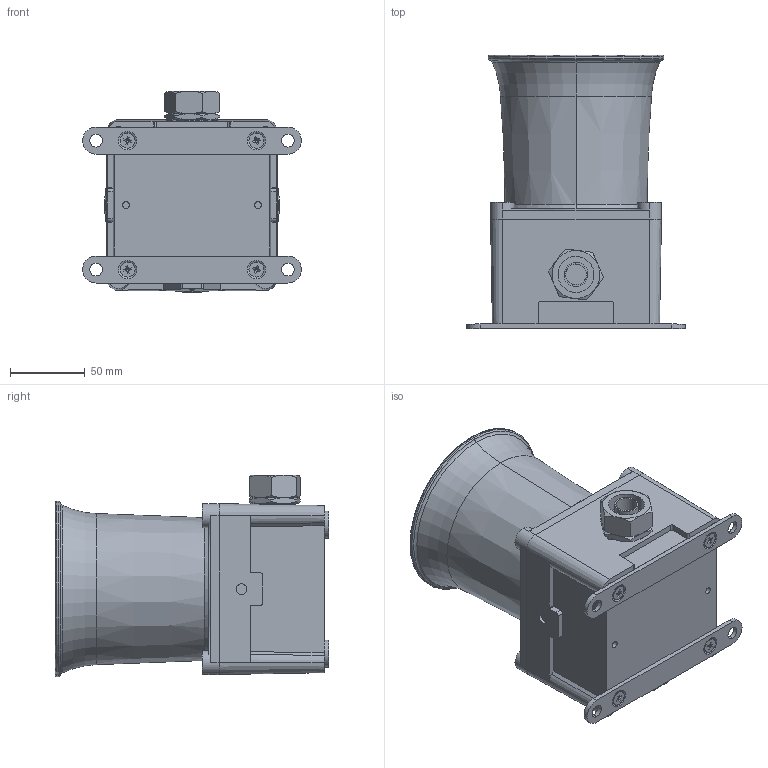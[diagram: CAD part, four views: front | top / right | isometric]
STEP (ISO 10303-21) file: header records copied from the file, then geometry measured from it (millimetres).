
FILE_DESCRIPTION (( 'STEP AP203' ), '1' );
FILE_NAME ('QKR572_3D00281 SEWN30E 3D紫賊_221020.STEP', '2022-11-14T02:04:48', ( 'QKR_PC04' ), ( '' ), 'SwSTEP 2.0', 'SolidWorks 2019', '' );
FILE_SCHEMA (( 'CONFIG_CONTROL_DESIGN' ));
Length unit declared in the file: inch
Products named in the file (1): QKR572_3D00281 SEWN30E 3D紫賊_221020
Bounding box: 146 x 182.28 x 134.51 mm (x, y, z)
Volume: 1307797.1 mm3; surface area: 182668.4 mm2
Topology: 1 solids, 18 shells, 955 faces, 2421 edges, 1510 vertices
Faces by surface type: plane 454, cylinder 209, cone 197, torus 76, sphere 16, bspline 3
Entity records: 31193 total; most frequent: CARTESIAN_POINT 8316, DIRECTION 4883, ORIENTED_EDGE 4790, EDGE_CURVE 2395, AXIS2_PLACEMENT_3D 2025, VERTEX_POINT 1510, CIRCLE 1072, EDGE_LOOP 1049
